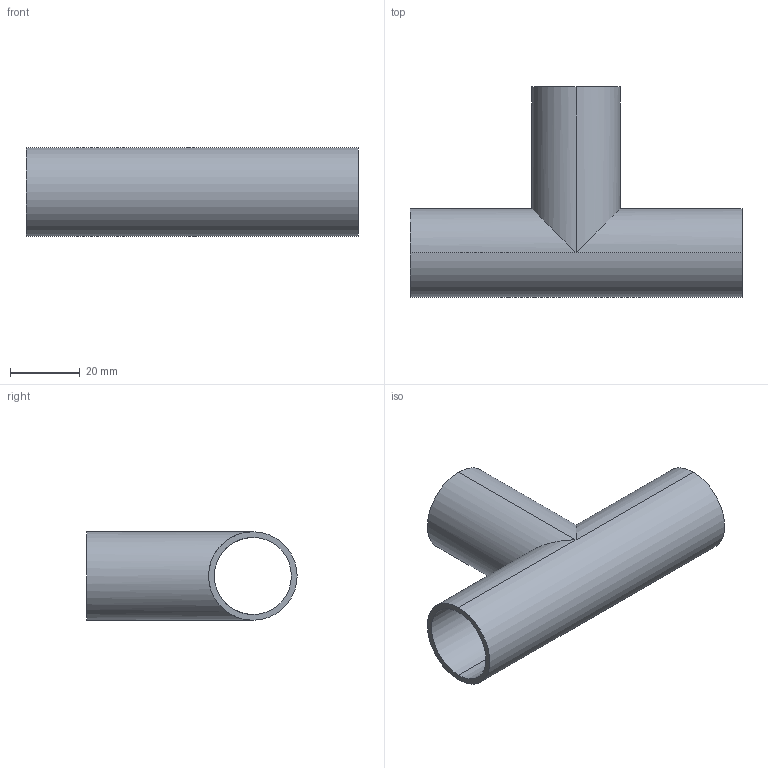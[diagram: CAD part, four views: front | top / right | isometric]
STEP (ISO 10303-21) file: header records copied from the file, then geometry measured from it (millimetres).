
FILE_DESCRIPTION (( 'STEP AP203' ), '1' );
FILE_NAME ('V7W1.0.STEP', '2018-05-11T14:26:10', ( 'vneprd' ), ( 'Microsoft' ), 'SwSTEP 2.0', 'SolidWorks 2014', '' );
FILE_SCHEMA (( 'CONFIG_CONTROL_DESIGN' ));
Length unit declared in the file: inch
Products named in the file (1): V7W1.0
Bounding box: 95.25 x 60.33 x 25.4 mm (x, y, z)
Volume: 15734 mm3; surface area: 19422.3 mm2
Topology: 1 solids, 1 shells, 13 faces, 28 edges, 16 vertices
Faces by surface type: cylinder 10, plane 3
Entity records: 437 total; most frequent: CARTESIAN_POINT 70, DIRECTION 64, ORIENTED_EDGE 56, EDGE_CURVE 28, AXIS2_PLACEMENT_3D 26, VERTEX_POINT 16, EDGE_LOOP 16, ADVANCED_FACE 13
